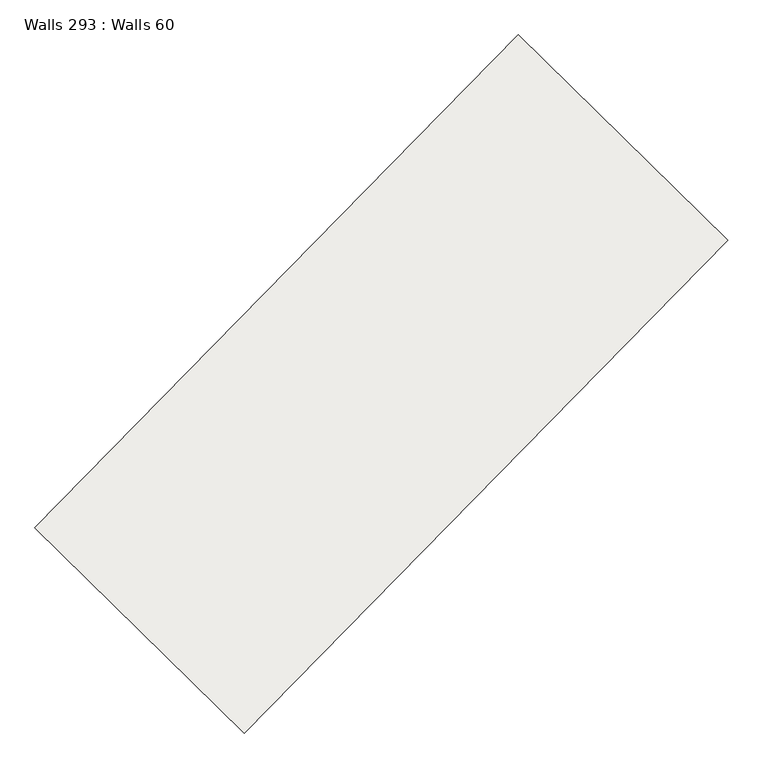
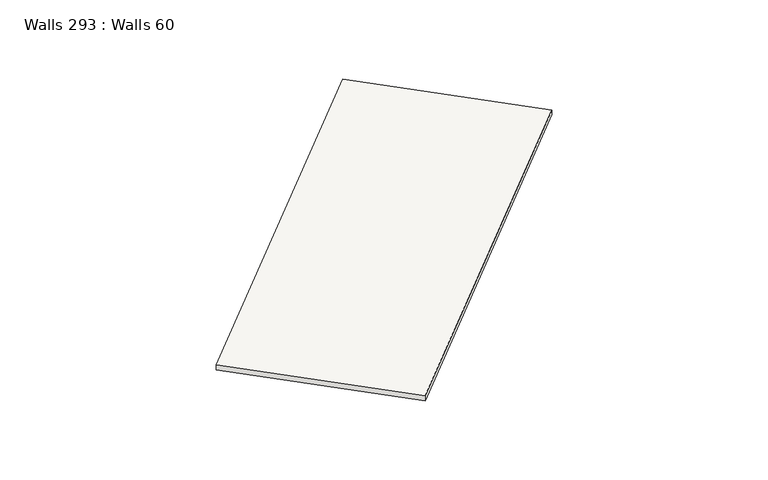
"""IFC4 building model written with IfcOpenShell, lengths in millimetres: slab geometry, Walls 293 : Walls 60."""

from ifc_helpers import new_model, si_unit, frame, origin, place, context, project, spatial, polyline, outline, extrude, source, transform, mapped, element, save


def walls_293_walls_60_b8abd38e(model_context):
    return source(origin(), model_context, "Body", "SweptSolid", [
        extrude(outline(polyline([(-50.0, 0.0), (50.0, 0.0), (-40.0, -8699.9999995), (-140.0, -8699.9999995), (-50.0, 0.0)])), frame((-18231.0155324, -177922.6631556, 637780.0), z_axis=(-0.71373616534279, 0.7004146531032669, 0.0), x_axis=(0.0, 0.0, 1.0)), (0.0, 0.0, 1.0), 3699.999995),
    ])


if __name__ == "__main__":
    model = new_model("IFC4")
    model_context = context("Model", 3, world=origin())
    ifc_project = project(units=[si_unit("LENGTHUNIT", "METRE", prefix="MILLI")], contexts=[model_context])
    site = spatial("IfcSite", under=ifc_project)
    building = spatial("IfcBuilding", under=site)
    placement = place(None, origin())
    walls_293_walls_60_shape = walls_293_walls_60_b8abd38e(model_context)
    element("IfcSlab", 1, ObjectType="Walls 293 : Walls 60", at=placement, inside=building, context=model_context, shape_type="MappedRepresentation", body=[
        mapped(walls_293_walls_60_shape, transform((0.0, 0.0, 0.0), x_axis=(1.0, 0.0, 0.0), y_axis=(0.0, 1.0, 0.0), z_axis=(0.0, 0.0, 1.0))),
    ])
    save(model, "model.ifc")
